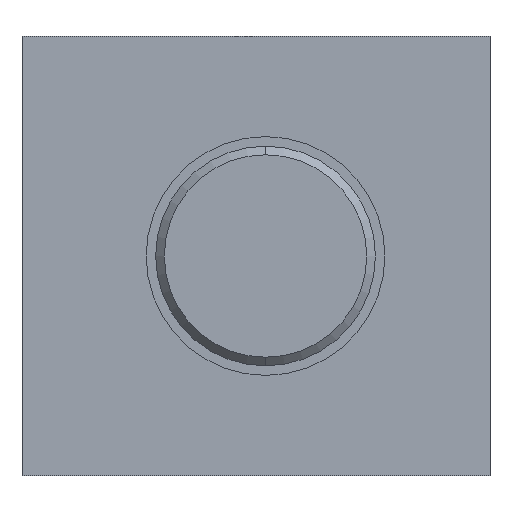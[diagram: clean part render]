
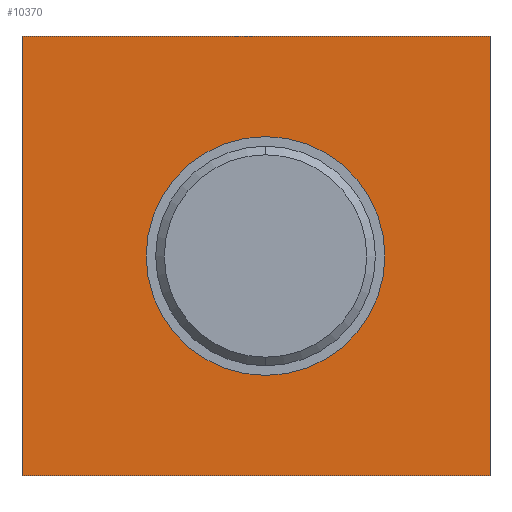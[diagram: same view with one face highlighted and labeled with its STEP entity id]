
A CAD part, left-side view. The second image highlights one B-rep face of the part: STEP entity #10370.
In plain terms, the highlighted planar face has unit normal (-1, 0, 0).
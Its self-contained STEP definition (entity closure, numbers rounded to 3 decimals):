
#277 = LINE ( 'NONE', #22933, #10706 ) ;
#345 = LINE ( 'NONE', #15427, #24893 ) ;
#501 = CARTESIAN_POINT ( 'NONE',  ( 0., -24.5, -23. ) ) ;
#767 = ORIENTED_EDGE ( 'NONE', *, *, #5593, .F. ) ;
#1086 = ORIENTED_EDGE ( 'NONE', *, *, #21896, .F. ) ;
#1211 = VERTEX_POINT ( 'NONE', #7756 ) ;
#1650 = VERTEX_POINT ( 'NONE', #3314 ) ;
#3314 = CARTESIAN_POINT ( 'NONE',  ( 0., 11.5, 0. ) ) ;
#3719 = AXIS2_PLACEMENT_3D ( 'NONE', #6723, #20151, #8654 ) ;
#4655 = CARTESIAN_POINT ( 'NONE',  ( 0., -13.5, 0. ) ) ;
#5593 = EDGE_CURVE ( 'NONE', #1650, #16503, #11872, .T. ) ;
#5864 = ORIENTED_EDGE ( 'NONE', *, *, #25019, .F. ) ;
#6704 = CARTESIAN_POINT ( 'NONE',  ( 0., -24.5, 23. ) ) ;
#6723 = CARTESIAN_POINT ( 'NONE',  ( 0., -1., 0. ) ) ;
#7756 = CARTESIAN_POINT ( 'NONE',  ( 0., 24.5, -23. ) ) ;
#8156 = LINE ( 'NONE', #501, #22928 ) ;
#8515 = ORIENTED_EDGE ( 'NONE', *, *, #21397, .F. ) ;
#8640 = FACE_BOUND ( 'NONE', #13619, .T. ) ;
#8654 = DIRECTION ( 'NONE',  ( 0., -1., 0. ) ) ;
#9855 = DIRECTION ( 'NONE',  ( -1., 0., 0. ) ) ;
#10370 = ADVANCED_FACE ( 'NONE', ( #23401, #8640 ), #14742, .T. ) ;
#10706 = VECTOR ( 'NONE', #11388, 1000. ) ;
#10860 = CARTESIAN_POINT ( 'NONE',  ( 0., 24.5, 23. ) ) ;
#10998 = DIRECTION ( 'NONE',  ( -1., 0., 0. ) ) ;
#11388 = DIRECTION ( 'NONE',  ( 0., 0., -1. ) ) ;
#11872 = CIRCLE ( 'NONE', #24540, 12.5 ) ;
#11922 = VERTEX_POINT ( 'NONE', #6704 ) ;
#12214 = DIRECTION ( 'NONE',  ( 0., 1., 0. ) ) ;
#13549 = DIRECTION ( 'NONE',  ( 0., -1., 0. ) ) ;
#13619 = EDGE_LOOP ( 'NONE', ( #18015, #767 ) ) ;
#13771 = VERTEX_POINT ( 'NONE', #21065 ) ;
#14742 = PLANE ( 'NONE',  #15053 ) ;
#15053 = AXIS2_PLACEMENT_3D ( 'NONE', #22542, #10998, #24439 ) ;
#15427 = CARTESIAN_POINT ( 'NONE',  ( 0., -24.5, 23. ) ) ;
#15689 = VERTEX_POINT ( 'NONE', #19789 ) ;
#16503 = VERTEX_POINT ( 'NONE', #4655 ) ;
#16636 = EDGE_LOOP ( 'NONE', ( #5864, #1086, #23425, #8515 ) ) ;
#17596 = VECTOR ( 'NONE', #24305, 1000. ) ;
#18015 = ORIENTED_EDGE ( 'NONE', *, *, #21323, .F. ) ;
#19100 = CIRCLE ( 'NONE', #3719, 12.5 ) ;
#19557 = EDGE_CURVE ( 'NONE', #13771, #11922, #345, .T. ) ;
#19789 = CARTESIAN_POINT ( 'NONE',  ( 0., -24.5, -23. ) ) ;
#20151 = DIRECTION ( 'NONE',  ( -1., 0., 0. ) ) ;
#21065 = CARTESIAN_POINT ( 'NONE',  ( 0., 24.5, 23. ) ) ;
#21323 = EDGE_CURVE ( 'NONE', #16503, #1650, #19100, .T. ) ;
#21397 = EDGE_CURVE ( 'NONE', #1211, #13771, #22769, .T. ) ;
#21410 = CARTESIAN_POINT ( 'NONE',  ( 0., -1., 0. ) ) ;
#21896 = EDGE_CURVE ( 'NONE', #11922, #15689, #277, .T. ) ;
#22542 = CARTESIAN_POINT ( 'NONE',  ( 0., 0., 0. ) ) ;
#22769 = LINE ( 'NONE', #10860, #17596 ) ;
#22928 = VECTOR ( 'NONE', #12214, 1000. ) ;
#22933 = CARTESIAN_POINT ( 'NONE',  ( 0., -24.5, 23. ) ) ;
#23370 = DIRECTION ( 'NONE',  ( 0., -1., 0. ) ) ;
#23401 = FACE_OUTER_BOUND ( 'NONE', #16636, .T. ) ;
#23425 = ORIENTED_EDGE ( 'NONE', *, *, #19557, .F. ) ;
#24305 = DIRECTION ( 'NONE',  ( 0., 0., 1. ) ) ;
#24439 = DIRECTION ( 'NONE',  ( 0., 0., 1. ) ) ;
#24540 = AXIS2_PLACEMENT_3D ( 'NONE', #21410, #9855, #23370 ) ;
#24893 = VECTOR ( 'NONE', #13549, 1000. ) ;
#25019 = EDGE_CURVE ( 'NONE', #15689, #1211, #8156, .T. ) ;
